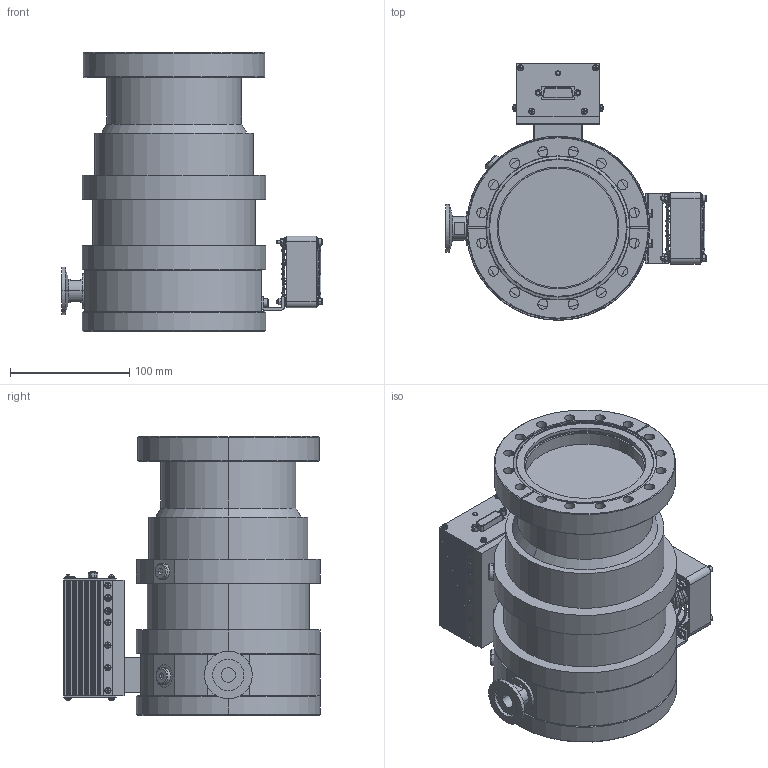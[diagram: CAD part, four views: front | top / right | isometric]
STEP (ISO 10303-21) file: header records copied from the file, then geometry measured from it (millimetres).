
FILE_DESCRIPTION(('Creo Elements/Direct Modeling STEP Export'),'2;1');
FILE_NAME('TG240FCABdel.stp','2018-03-13T13:16:48',(''),(''),'Creo Elements/Direct Modeling STEP processor for AP214 (Solid Model)','Creo Elements/Direct Modeling 18.1E 22-Nov-2013 (C) Parametric Technology GmbH','');
FILE_SCHEMA(('AUTOMOTIVE_DESIGN { 1 0 10303 214 1 1 1 1 }'));
Length unit declared in the file: millimetre
Products named in the file (37): M6__15____.PRT; TG240F-HAIKI.PRT; SPN_1_L____.PRT; TG240F-CASING_C.PRT; M6____.PRT; M4____.PRT; DEFAULT-5____.PRT; DEFAULT____-22795.PRT; DEFAULT-9____.PRT; DEFAULT-7____.PRT; DEFAULT-8____.PRT; DEFAULT____-22648.ASM; DEFAULT-2____.PRT; DEFAULT-6____.PRT; DEFAULT-3____.PRT; DEFAULT-4____.PRT; DEFAULT-1____-22744.PRT; DEFAULT-1____-22742.ASM; _R___G_________________.ASM; TG240F-HOUSING.PRT; M3___35____.PRT; M3_I_B_G____.PRT; M3W____.PRT; NONE-50555.PRT; NONE-54954.PRT; NONE-58441.PRT; 109-139E____.ASM; FAN___T___________.PRT; NONE-185.PRT; NONE-64495.PRT; NONE-67605.PRT; ___109-139E_______.ASM; 109P0624H402____.PRT; TG240FFAN____.ASM; TG240F-COVER.PRT; TG240FCAB.ASM; TG240FCAB.STEP
Assembly tree (86 placements, depth 6):
  TG240FCAB.STEP
    TG240FCAB.ASM
      SPN_1_L____.PRT  x2
      TG240F-COVER.PRT
      M6____.PRT  x8
      M6__15____.PRT  x8
      M4____.PRT  x2
      TG240FFAN____.ASM
        109P0624H402____.PRT
        ___109-139E_______.ASM
          NONE-67605.PRT
          NONE-64495.PRT
          NONE-185.PRT
        M3W____.PRT  x8
        M3___35____.PRT  x4
        FAN___T___________.PRT
        M3_I_B_G____.PRT  x4
        109-139E____.ASM
          NONE-58441.PRT
          NONE-54954.PRT
          NONE-50555.PRT
      TG240F-HOUSING.PRT
      _R___G_________________.ASM
        DEFAULT-1____-22742.ASM
          DEFAULT-4____.PRT  x2
          DEFAULT-5____.PRT  x18
          DEFAULT-1____-22744.PRT
          DEFAULT-3____.PRT
          DEFAULT____-22648.ASM  x4
            DEFAULT-8____.PRT
            DEFAULT-7____.PRT
            DEFAULT-9____.PRT
          DEFAULT-6____.PRT
          DEFAULT-2____.PRT
          DEFAULT____-22795.PRT
      TG240F-CASING_C.PRT
      TG240F-HAIKI.PRT
Bounding box: 218.1 x 214.8 x 233.7 mm (x, y, z)
Volume: 3821034.7 mm3; surface area: 380699 mm2
Topology: 85 solids, 85 shells, 2741 faces, 6610 edges, 4172 vertices
Faces by surface type: plane 1223, cylinder 909, cone 278, torus 230, bspline 96, sphere 5
Entity records: 64548 total; most frequent: CARTESIAN_POINT 27287, ORIENTED_EDGE 6772, DIRECTION 6106, EDGE_CURVE 3386, VERTEX_POINT 2188, AXIS2_PLACEMENT_3D 2121, VECTOR 1864, LINE 1864
